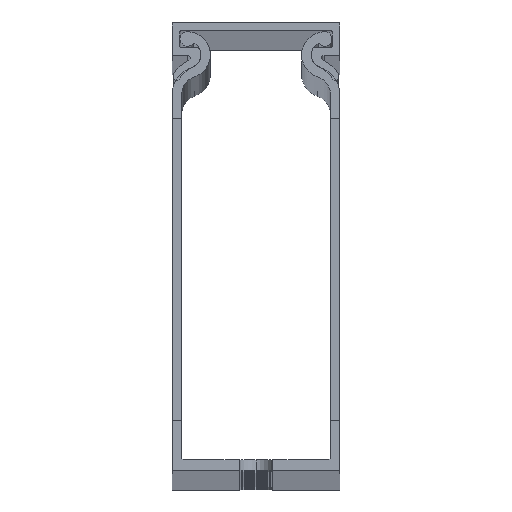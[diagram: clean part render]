
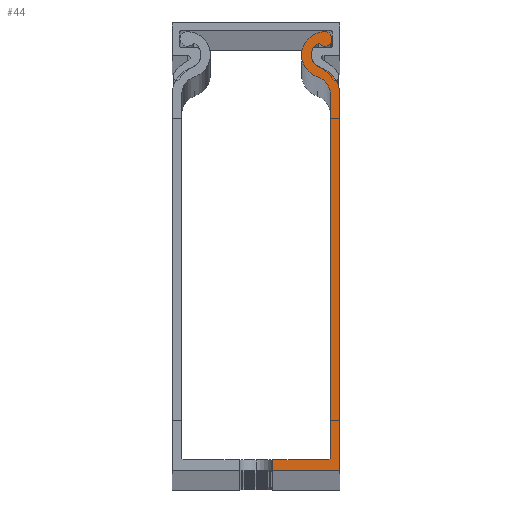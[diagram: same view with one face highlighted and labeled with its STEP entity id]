
A CAD part, top view. The second image highlights one B-rep face of the part: STEP entity #44.
In plain terms, the highlighted planar face has unit normal (0, 0, 1).
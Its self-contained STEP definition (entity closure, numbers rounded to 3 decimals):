
#44 = ADVANCED_FACE ( 'NONE', ( #15715 ), #1703, .T. ) ;
#204 = CARTESIAN_POINT ( 'NONE',  ( 2568.407, 1218.956, 2000. ) ) ;
#1288 = VERTEX_POINT ( 'NONE', #11247 ) ;
#1696 = CARTESIAN_POINT ( 'NONE',  ( 2583.407, 1217.056, 2000. ) ) ;
#1703 = PLANE ( 'NONE',  #35702 ) ;
#1813 = DIRECTION ( 'NONE',  ( 1., 0., 0. ) ) ;
#2007 = CARTESIAN_POINT ( 'NONE',  ( 2581.207, 1219.456, 2000. ) ) ;
#2119 = ORIENTED_EDGE ( 'NONE', *, *, #15388, .T. ) ;
#3350 = EDGE_CURVE ( 'NONE', #1288, #33465, #16500, .T. ) ;
#3866 = CARTESIAN_POINT ( 'NONE',  ( 2580.655, 1291.356, 2000. ) ) ;
#4387 = CARTESIAN_POINT ( 'NONE',  ( 2581.707, 1284.203, 2000. ) ) ;
#4464 = AXIS2_PLACEMENT_3D ( 'NONE', #9567, #21969, #5804 ) ;
#5411 = VECTOR ( 'NONE', #6346, 1000. ) ;
#5804 = DIRECTION ( 'NONE',  ( 1., 0., 0. ) ) ;
#5834 = DIRECTION ( 'NONE',  ( 0., 0., 1. ) ) ;
#6179 = CARTESIAN_POINT ( 'NONE',  ( 2568.407, 1217.056, 2000. ) ) ;
#6247 = DIRECTION ( 'NONE',  ( 1., 0., 0. ) ) ;
#6346 = DIRECTION ( 'NONE',  ( 1., 0., 0. ) ) ;
#6724 = DIRECTION ( 'NONE',  ( 0., 1., 0. ) ) ;
#8687 = EDGE_CURVE ( 'NONE', #50128, #25868, #21686, .T. ) ;
#8895 = EDGE_CURVE ( 'NONE', #41652, #43736, #24285, .T. ) ;
#9567 = CARTESIAN_POINT ( 'NONE',  ( 2580.655, 1291.356, 2000. ) ) ;
#10117 = EDGE_CURVE ( 'NONE', #51982, #41652, #31879, .T. ) ;
#10409 = ORIENTED_EDGE ( 'NONE', *, *, #3350, .T. ) ;
#10762 = EDGE_CURVE ( 'NONE', #19814, #33465, #50385, .T. ) ;
#10778 = DIRECTION ( 'NONE',  ( 1., 0., 0. ) ) ;
#10784 = ORIENTED_EDGE ( 'NONE', *, *, #16898, .T. ) ;
#11200 = AXIS2_PLACEMENT_3D ( 'NONE', #2007, #14397, #10778 ) ;
#11247 = CARTESIAN_POINT ( 'NONE',  ( 2581.207, 1218.956, 2000. ) ) ;
#11338 = VECTOR ( 'NONE', #12451, 1000. ) ;
#12296 = DIRECTION ( 'NONE',  ( 1., 0., 0. ) ) ;
#12451 = DIRECTION ( 'NONE',  ( -1., 0., 0. ) ) ;
#12477 = DIRECTION ( 'NONE',  ( 0., 0., 1. ) ) ;
#13879 = DIRECTION ( 'NONE',  ( 0., 1., 0. ) ) ;
#14397 = DIRECTION ( 'NONE',  ( 0., 0., -1. ) ) ;
#15388 = EDGE_CURVE ( 'NONE', #15825, #51982, #36473, .T. ) ;
#15715 = FACE_OUTER_BOUND ( 'NONE', #20013, .T. ) ;
#15825 = VERTEX_POINT ( 'NONE', #40780 ) ;
#16500 = LINE ( 'NONE', #204, #11338 ) ;
#16758 = AXIS2_PLACEMENT_3D ( 'NONE', #35299, #26716, #6247 ) ;
#16898 = EDGE_CURVE ( 'NONE', #29344, #51059, #47178, .T. ) ;
#17127 = CARTESIAN_POINT ( 'NONE',  ( 2580.029, 1295.408, 2000. ) ) ;
#17366 = EDGE_CURVE ( 'NONE', #44871, #50128, #49091, .T. ) ;
#17483 = AXIS2_PLACEMENT_3D ( 'NONE', #35041, #30398, #43134 ) ;
#17620 = ORIENTED_EDGE ( 'NONE', *, *, #8895, .T. ) ;
#18637 = AXIS2_PLACEMENT_3D ( 'NONE', #3866, #12477, #12296 ) ;
#18816 = DIRECTION ( 'NONE',  ( 1., 0., 0. ) ) ;
#19814 = VERTEX_POINT ( 'NONE', #53082 ) ;
#20013 = EDGE_LOOP ( 'NONE', ( #28811, #47900, #10784, #47279, #2119, #50104, #17620, #36508, #39280, #24304, #29429, #37706, #10409 ) ) ;
#20228 = CARTESIAN_POINT ( 'NONE',  ( 2581.707, 1219.456, 2000. ) ) ;
#21583 = EDGE_CURVE ( 'NONE', #46651, #44871, #35296, .T. ) ;
#21686 = LINE ( 'NONE', #4387, #44804 ) ;
#21969 = DIRECTION ( 'NONE',  ( 0., 0., -1. ) ) ;
#24285 = CIRCLE ( 'NONE', #17483, 1.35 ) ;
#24304 = ORIENTED_EDGE ( 'NONE', *, *, #17366, .T. ) ;
#25325 = CARTESIAN_POINT ( 'NONE',  ( 2579.527, 1293.474, 2000. ) ) ;
#25868 = VERTEX_POINT ( 'NONE', #20228 ) ;
#26716 = DIRECTION ( 'NONE',  ( 0., 0., 1. ) ) ;
#28641 = VECTOR ( 'NONE', #13879, 1000. ) ;
#28811 = ORIENTED_EDGE ( 'NONE', *, *, #10762, .F. ) ;
#29344 = VERTEX_POINT ( 'NONE', #1696 ) ;
#29429 = ORIENTED_EDGE ( 'NONE', *, *, #8687, .T. ) ;
#29724 = CARTESIAN_POINT ( 'NONE',  ( 2576.555, 1291.356, 2000. ) ) ;
#30236 = EDGE_CURVE ( 'NONE', #51059, #15825, #50616, .T. ) ;
#30370 = CARTESIAN_POINT ( 'NONE',  ( 2580.655, 1291.356, 2000. ) ) ;
#30385 = CARTESIAN_POINT ( 'NONE',  ( 2571.407, 1284.233, 2000. ) ) ;
#30398 = DIRECTION ( 'NONE',  ( 0., 0., 1. ) ) ;
#30428 = CARTESIAN_POINT ( 'NONE',  ( 2558.507, 1284.233, 2000. ) ) ;
#30547 = DIRECTION ( 'NONE',  ( 1., 0., 0. ) ) ;
#31879 = CIRCLE ( 'NONE', #39142, 2.4 ) ;
#33465 = VERTEX_POINT ( 'NONE', #41630 ) ;
#34330 = EDGE_CURVE ( 'NONE', #43736, #46651, #46711, .T. ) ;
#34543 = DIRECTION ( 'NONE',  ( 1., 0., 0. ) ) ;
#34606 = DIRECTION ( 'NONE',  ( 0., 0., 1. ) ) ;
#34851 = DIRECTION ( 'NONE',  ( 0., 0., -1. ) ) ;
#34962 = LINE ( 'NONE', #6179, #5411 ) ;
#34985 = AXIS2_PLACEMENT_3D ( 'NONE', #43384, #34606, #18816 ) ;
#35041 = CARTESIAN_POINT ( 'NONE',  ( 2580.657, 1294.213, 2000. ) ) ;
#35296 = CIRCLE ( 'NONE', #34985, 4.1 ) ;
#35299 = CARTESIAN_POINT ( 'NONE',  ( 2578.307, 1284.233, 2000. ) ) ;
#35654 = CIRCLE ( 'NONE', #11200, 0.5 ) ;
#35702 = AXIS2_PLACEMENT_3D ( 'NONE', #30428, #5834, #34543 ) ;
#36473 = CIRCLE ( 'NONE', #4464, 2.4 ) ;
#36508 = ORIENTED_EDGE ( 'NONE', *, *, #34330, .T. ) ;
#36851 = AXIS2_PLACEMENT_3D ( 'NONE', #51330, #47019, #1813 ) ;
#36946 = CARTESIAN_POINT ( 'NONE',  ( 2578.255, 1291.356, 2000. ) ) ;
#36973 = EDGE_CURVE ( 'NONE', #19814, #29344, #34962, .T. ) ;
#37383 = DIRECTION ( 'NONE',  ( 0., -1., 0. ) ) ;
#37706 = ORIENTED_EDGE ( 'NONE', *, *, #48823, .T. ) ;
#39142 = AXIS2_PLACEMENT_3D ( 'NONE', #30370, #34851, #30547 ) ;
#39280 = ORIENTED_EDGE ( 'NONE', *, *, #21583, .T. ) ;
#39372 = CARTESIAN_POINT ( 'NONE',  ( 2583.407, 1217.056, 2000. ) ) ;
#40780 = CARTESIAN_POINT ( 'NONE',  ( 2579.904, 1289.077, 2000. ) ) ;
#41630 = CARTESIAN_POINT ( 'NONE',  ( 2571.407, 1218.956, 2000. ) ) ;
#41652 = VERTEX_POINT ( 'NONE', #25325 ) ;
#42714 = VECTOR ( 'NONE', #6724, 1000. ) ;
#43134 = DIRECTION ( 'NONE',  ( 1., 0., 0. ) ) ;
#43384 = CARTESIAN_POINT ( 'NONE',  ( 2580.655, 1291.356, 2000. ) ) ;
#43736 = VERTEX_POINT ( 'NONE', #17127 ) ;
#44804 = VECTOR ( 'NONE', #37383, 1000. ) ;
#44871 = VERTEX_POINT ( 'NONE', #46364 ) ;
#46364 = CARTESIAN_POINT ( 'NONE',  ( 2579.372, 1287.462, 2000. ) ) ;
#46651 = VERTEX_POINT ( 'NONE', #29724 ) ;
#46711 = CIRCLE ( 'NONE', #18637, 4.1 ) ;
#47019 = DIRECTION ( 'NONE',  ( 0., 0., -1. ) ) ;
#47178 = LINE ( 'NONE', #39372, #42714 ) ;
#47279 = ORIENTED_EDGE ( 'NONE', *, *, #30236, .T. ) ;
#47900 = ORIENTED_EDGE ( 'NONE', *, *, #36973, .T. ) ;
#48823 = EDGE_CURVE ( 'NONE', #25868, #1288, #35654, .T. ) ;
#49091 = CIRCLE ( 'NONE', #36851, 3.4 ) ;
#50104 = ORIENTED_EDGE ( 'NONE', *, *, #10117, .T. ) ;
#50128 = VERTEX_POINT ( 'NONE', #52299 ) ;
#50200 = CARTESIAN_POINT ( 'NONE',  ( 2583.407, 1284.196, 2000. ) ) ;
#50385 = LINE ( 'NONE', #30385, #28641 ) ;
#50616 = CIRCLE ( 'NONE', #16758, 5.1 ) ;
#51059 = VERTEX_POINT ( 'NONE', #50200 ) ;
#51330 = CARTESIAN_POINT ( 'NONE',  ( 2578.307, 1284.233, 2000. ) ) ;
#51982 = VERTEX_POINT ( 'NONE', #36946 ) ;
#52299 = CARTESIAN_POINT ( 'NONE',  ( 2581.707, 1284.203, 2000. ) ) ;
#53082 = CARTESIAN_POINT ( 'NONE',  ( 2571.407, 1217.056, 2000. ) ) ;
